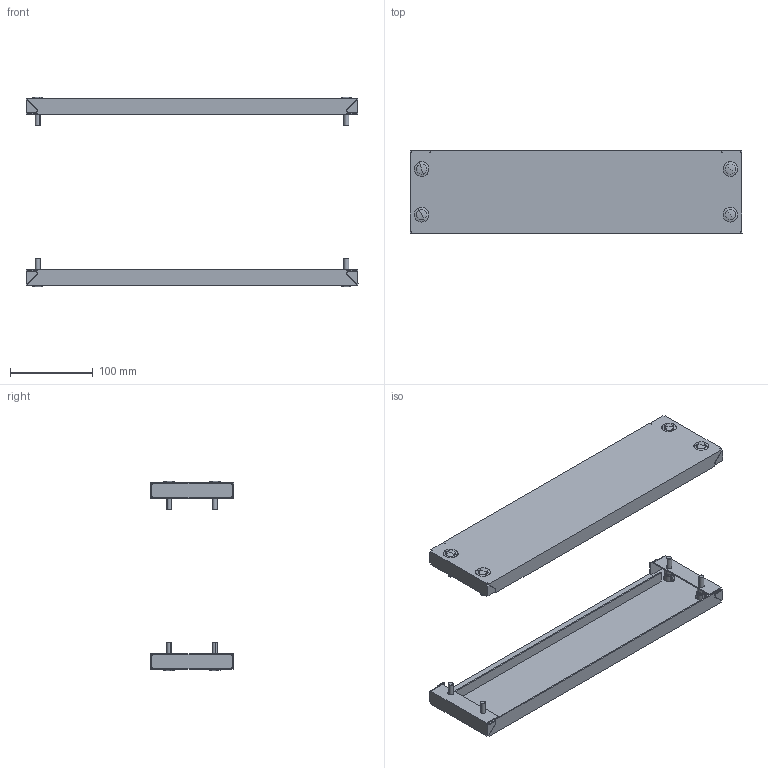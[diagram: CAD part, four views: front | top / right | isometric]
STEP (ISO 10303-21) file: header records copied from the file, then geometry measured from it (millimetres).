
FILE_DESCRIPTION (( 'STEP AP203' ), '1' );
FILE_NAME ('R5FZ4-250.STEP', '2025-06-18T08:27:49', ( '' ), ( '' ), 'SwSTEP 2.0', 'SolidWorks 2022', '' );
FILE_SCHEMA (( 'CONFIG_CONTROL_DESIGN' ));
Length unit declared in the file: millimetre
Products named in the file (5): R5FZ4-250; RB.1055.00.00.0 simple_-00 (400); 6 DIN 6798 A Zinc; Plug_11.5-13Д18ЧК_-00; M6x16 DIN 912 HX cl.4,8 Zinc_stright
Assembly tree (26 placements, depth 2):
  R5FZ4-250
    RB.1055.00.00.0 simple_-00 (400)  x2
    M6x16 DIN 912 HX cl.4,8 Zinc_stright  x8
    6 DIN 6798 A Zinc  x8
    Plug_11.5-13Д18ЧК_-00  x8
Bounding box: 400 x 100.05 x 228.5 mm (x, y, z)
Volume: 206091.3 mm3; surface area: 280424.9 mm2
Topology: 26 solids, 26 shells, 1196 faces, 3456 edges, 2112 vertices
Faces by surface type: plane 700, bspline 208, cylinder 128, cone 96, torus 48, sphere 16
Entity records: 9921 total; most frequent: CARTESIAN_POINT 2626, ORIENTED_EDGE 1352, DIRECTION 1188, EDGE_CURVE 676, LINE 448, VECTOR 448, VERTEX_POINT 444, AXIS2_PLACEMENT_3D 370
